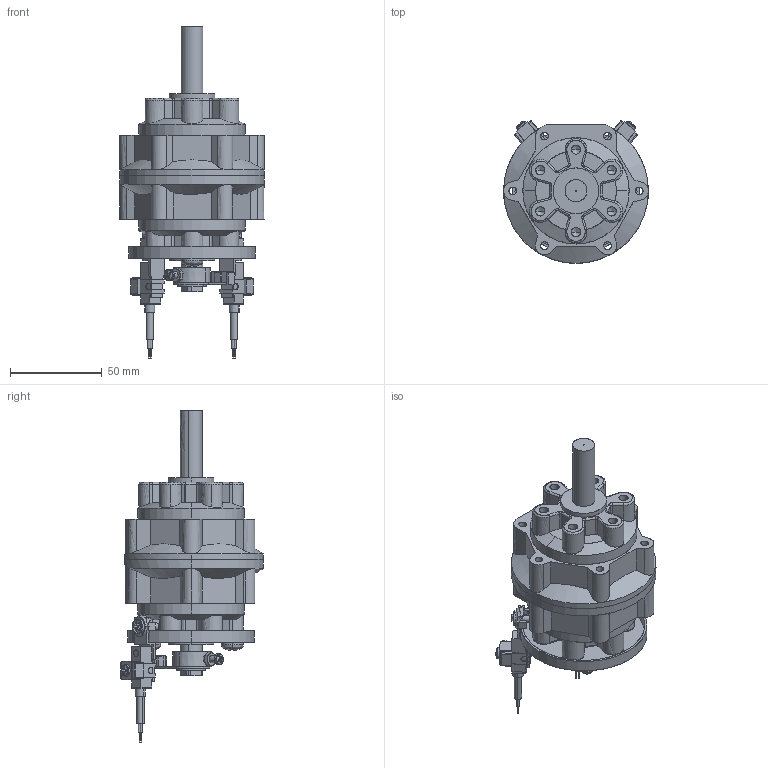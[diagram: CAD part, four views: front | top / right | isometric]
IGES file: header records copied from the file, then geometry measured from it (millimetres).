
Start section: SolidWorks IGES file using analytic representation for surfaces
Global section: file name: C:\Users\Chieh_Lu\Dropbox\¤u§@«Ç\PRN50-150-300-800\PRN50\PRN50\PRN50#-#-#-#-FM-#.IGS; native system: SolidWorks 2014; preprocessor: SolidWorks 2014; author: Chieh_Lu; date: 160115.004001; units: millimetre
Bounding box: 79 x 77.96 x 181.2 mm (x, y, z)
Surface area: 81486.9 mm2 (no closed solid volume)
Topology: 0 solids, 0 shells, 1075 faces, 12373 edges, 12323 vertices
Faces by surface type: bspline 601, revolution 474
